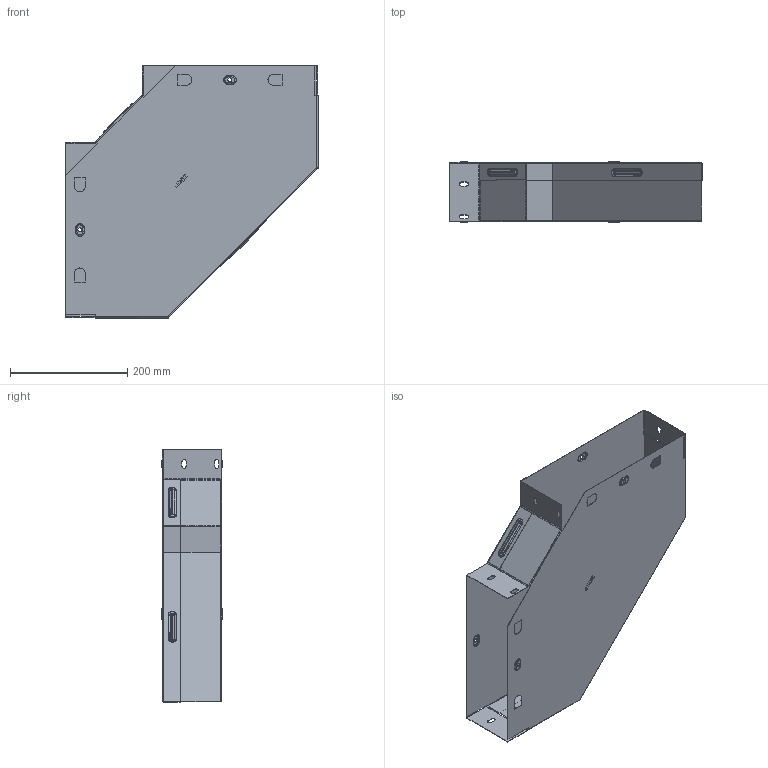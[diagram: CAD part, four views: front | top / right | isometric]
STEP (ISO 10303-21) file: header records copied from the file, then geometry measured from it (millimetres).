
FILE_DESCRIPTION (( 'STEP AP214' ), '1' );
FILE_NAME ('g90100300_捘.STEP', '2019-06-10T09:51:17', ( '砐錪賧瘔蠈錪 Windows' ), ( '' ), 'SwSTEP 2.0', 'SolidWorks 2018', '' );
FILE_SCHEMA (( 'AUTOMOTIVE_DESIGN' ));
Length unit declared in the file: millimetre
Products named in the file (1): g90100300_捘
Bounding box: 430.8 x 103.8 x 430.8 mm (x, y, z)
Volume: 305175 mm3; surface area: 767633.5 mm2
Topology: 2 solids, 2 shells, 621 faces, 1755 edges, 1138 vertices
Faces by surface type: plane 372, cylinder 159, torus 64, bspline 26
Entity records: 21428 total; most frequent: CARTESIAN_POINT 4991, ORIENTED_EDGE 3510, DIRECTION 3281, EDGE_CURVE 1755, LINE 1293, VECTOR 1293, VERTEX_POINT 1138, AXIS2_PLACEMENT_3D 994
